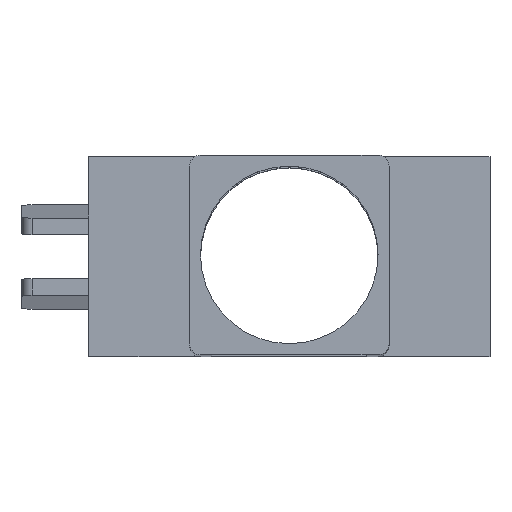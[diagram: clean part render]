
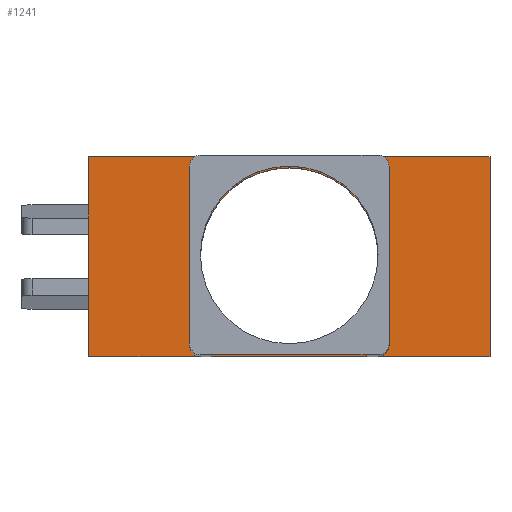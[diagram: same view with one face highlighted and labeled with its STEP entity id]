
A CAD part, top view. The second image highlights one B-rep face of the part: STEP entity #1241.
In plain terms, the highlighted planar face has unit normal (0, 0, 1).
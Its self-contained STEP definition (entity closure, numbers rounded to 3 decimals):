
#2=CARTESIAN_POINT('',(-4.29,-8.,44.));
#3=DIRECTION('',(0.,0.,-1.));
#4=DIRECTION('',(0.,-1.,0.));
#5=AXIS2_PLACEMENT_3D('',#2,#3,#4);
#57=DIRECTION('',(0.,1.,0.));
#58=VECTOR('',#57,2.);
#59=CARTESIAN_POINT('',(10.71,7.,44.));
#60=LINE('',#59,#58);
#65=DIRECTION('',(0.,1.,0.));
#66=VECTOR('',#65,2.);
#67=CARTESIAN_POINT('',(10.71,-9.,44.));
#68=LINE('',#67,#66);
#117=DIRECTION('',(1.,0.,0.));
#118=VECTOR('',#117,14.);
#119=CARTESIAN_POINT('',(-3.29,9.,44.));
#120=LINE('',#119,#118);
#125=CARTESIAN_POINT('',(-4.29,8.,44.));
#126=DIRECTION('',(0.,0.,-1.));
#127=DIRECTION('',(-1.,0.,0.));
#128=AXIS2_PLACEMENT_3D('',#125,#126,#127);
#176=CARTESIAN_POINT('',(11.71,8.,44.));
#177=DIRECTION('',(0.,0.,-1.));
#178=DIRECTION('',(0.,1.,0.));
#179=AXIS2_PLACEMENT_3D('',#176,#177,#178);
#201=DIRECTION('',(1.,0.,0.));
#202=VECTOR('',#201,2.);
#203=CARTESIAN_POINT('',(-5.29,-7.,44.));
#204=LINE('',#203,#202);
#205=DIRECTION('',(1.,0.,0.));
#206=VECTOR('',#205,2.);
#207=CARTESIAN_POINT('',(10.71,-7.,44.));
#208=LINE('',#207,#206);
#209=DIRECTION('',(0.,1.,0.));
#210=VECTOR('',#209,2.);
#211=CARTESIAN_POINT('',(-3.29,-9.,44.));
#212=LINE('',#211,#210);
#213=DIRECTION('',(0.,1.,0.));
#214=VECTOR('',#213,1.);
#215=CARTESIAN_POINT('',(-5.29,-8.,44.));
#216=LINE('',#215,#214);
#217=DIRECTION('',(-1.,0.,0.));
#218=VECTOR('',#217,10.09);
#219=CARTESIAN_POINT('',(-4.29,-9.,44.));
#220=LINE('',#219,#218);
#221=DIRECTION('',(1.,0.,0.));
#222=VECTOR('',#221,10.09);
#223=CARTESIAN_POINT('',(-14.38,9.,44.));
#224=LINE('',#223,#222);
#225=DIRECTION('',(0.,1.,0.));
#226=VECTOR('',#225,1.);
#227=CARTESIAN_POINT('',(-5.29,7.,44.));
#228=LINE('',#227,#226);
#229=DIRECTION('',(1.,0.,0.));
#230=VECTOR('',#229,2.);
#231=CARTESIAN_POINT('',(-5.29,7.,44.));
#232=LINE('',#231,#230);
#233=DIRECTION('',(0.,1.,0.));
#234=VECTOR('',#233,2.);
#235=CARTESIAN_POINT('',(-3.29,7.,44.));
#236=LINE('',#235,#234);
#237=DIRECTION('',(1.,0.,0.));
#238=VECTOR('',#237,2.);
#239=CARTESIAN_POINT('',(10.71,7.,44.));
#240=LINE('',#239,#238);
#241=DIRECTION('',(0.,1.,0.));
#242=VECTOR('',#241,1.);
#243=CARTESIAN_POINT('',(12.71,7.,44.));
#244=LINE('',#243,#242);
#245=DIRECTION('',(1.,0.,0.));
#246=VECTOR('',#245,10.09);
#247=CARTESIAN_POINT('',(11.71,9.,44.));
#248=LINE('',#247,#246);
#249=DIRECTION('',(-1.,0.,0.));
#250=VECTOR('',#249,10.09);
#251=CARTESIAN_POINT('',(21.8,-9.,44.));
#252=LINE('',#251,#250);
#253=DIRECTION('',(0.,1.,0.));
#254=VECTOR('',#253,1.);
#255=CARTESIAN_POINT('',(12.71,-8.,44.));
#256=LINE('',#255,#254);
#257=CARTESIAN_POINT('',(3.71,0.,44.));
#258=DIRECTION('',(0.,0.,1.));
#259=DIRECTION('',(-1.,0.,0.));
#260=AXIS2_PLACEMENT_3D('',#257,#258,#259);
#262=CARTESIAN_POINT('',(3.71,0.,44.));
#263=DIRECTION('',(0.,0.,1.));
#264=DIRECTION('',(1.,0.,0.));
#265=AXIS2_PLACEMENT_3D('',#262,#263,#264);
#287=DIRECTION('',(1.,0.,0.));
#288=VECTOR('',#287,14.);
#289=CARTESIAN_POINT('',(-3.29,-9.,44.));
#290=LINE('',#289,#288);
#295=CARTESIAN_POINT('',(11.71,-8.,44.));
#296=DIRECTION('',(0.,0.,-1.));
#297=DIRECTION('',(1.,0.,0.));
#298=AXIS2_PLACEMENT_3D('',#295,#296,#297);
#310=DIRECTION('',(0.,-1.,0.));
#311=VECTOR('',#310,18.);
#312=CARTESIAN_POINT('',(21.8,9.,44.));
#313=LINE('',#312,#311);
#438=DIRECTION('',(0.,1.,0.));
#439=VECTOR('',#438,18.);
#440=CARTESIAN_POINT('',(-14.38,-9.,44.));
#441=LINE('',#440,#439);
#716=CARTESIAN_POINT('',(-14.38,-9.,44.));
#717=CARTESIAN_POINT('',(-14.38,9.,44.));
#718=VERTEX_POINT('',#716);
#719=VERTEX_POINT('',#717);
#784=CARTESIAN_POINT('',(21.8,9.,44.));
#785=CARTESIAN_POINT('',(21.8,-9.,44.));
#786=VERTEX_POINT('',#784);
#787=VERTEX_POINT('',#785);
#801=CARTESIAN_POINT('',(-5.29,-8.,44.));
#803=VERTEX_POINT('',#801);
#806=CARTESIAN_POINT('',(-4.29,-9.,44.));
#807=VERTEX_POINT('',#806);
#809=CARTESIAN_POINT('',(11.71,-9.,44.));
#811=VERTEX_POINT('',#809);
#814=CARTESIAN_POINT('',(12.71,-8.,44.));
#815=VERTEX_POINT('',#814);
#817=CARTESIAN_POINT('',(-4.29,9.,44.));
#819=VERTEX_POINT('',#817);
#822=CARTESIAN_POINT('',(-5.29,8.,44.));
#823=VERTEX_POINT('',#822);
#825=CARTESIAN_POINT('',(12.71,8.,44.));
#827=VERTEX_POINT('',#825);
#830=CARTESIAN_POINT('',(11.71,9.,44.));
#831=VERTEX_POINT('',#830);
#844=CARTESIAN_POINT('',(-3.29,-9.,44.));
#845=VERTEX_POINT('',#844);
#846=CARTESIAN_POINT('',(10.71,-9.,44.));
#847=VERTEX_POINT('',#846);
#852=CARTESIAN_POINT('',(-3.29,9.,44.));
#853=VERTEX_POINT('',#852);
#854=CARTESIAN_POINT('',(10.71,9.,44.));
#855=VERTEX_POINT('',#854);
#860=CARTESIAN_POINT('',(-5.29,7.,44.));
#861=VERTEX_POINT('',#860);
#862=CARTESIAN_POINT('',(-5.29,-7.,44.));
#863=VERTEX_POINT('',#862);
#868=CARTESIAN_POINT('',(12.71,7.,44.));
#869=VERTEX_POINT('',#868);
#870=CARTESIAN_POINT('',(12.71,-7.,44.));
#871=VERTEX_POINT('',#870);
#873=CARTESIAN_POINT('',(-3.29,7.,44.));
#875=VERTEX_POINT('',#873);
#877=CARTESIAN_POINT('',(-3.29,-7.,44.));
#879=VERTEX_POINT('',#877);
#880=CARTESIAN_POINT('',(10.71,7.,44.));
#882=VERTEX_POINT('',#880);
#884=CARTESIAN_POINT('',(10.71,-7.,44.));
#886=VERTEX_POINT('',#884);
#890=CARTESIAN_POINT('',(11.71,0.,44.));
#891=VERTEX_POINT('',#890);
#894=CARTESIAN_POINT('',(-4.29,0.,44.));
#895=VERTEX_POINT('',#894);
#1198=CARTESIAN_POINT('',(1.25,4.,44.));
#1199=DIRECTION('',(0.,0.,1.));
#1200=DIRECTION('',(1.,0.,0.));
#1201=AXIS2_PLACEMENT_3D('',#1198,#1199,#1200);
#1202=PLANE('',#1201);
#1203=ORIENTED_EDGE('',*,*,#1193,.F.);
#1204=ORIENTED_EDGE('',*,*,#997,.F.);
#1206=ORIENTED_EDGE('',*,*,#1205,.F.);
#1207=ORIENTED_EDGE('',*,*,#1051,.T.);
#1208=ORIENTED_EDGE('',*,*,#1178,.F.);
#1209=ORIENTED_EDGE('',*,*,#928,.F.);
#1210=ORIENTED_EDGE('',*,*,#907,.F.);
#1212=ORIENTED_EDGE('',*,*,#1211,.T.);
#1214=ORIENTED_EDGE('',*,*,#1213,.T.);
#1215=ORIENTED_EDGE('',*,*,#1066,.T.);
#1216=ORIENTED_EDGE('',*,*,#1107,.F.);
#1217=ORIENTED_EDGE('',*,*,#921,.F.);
#1218=ORIENTED_EDGE('',*,*,#1011,.T.);
#1219=ORIENTED_EDGE('',*,*,#1039,.T.);
#1220=ORIENTED_EDGE('',*,*,#1092,.T.);
#1221=ORIENTED_EDGE('',*,*,#979,.F.);
#1222=ORIENTED_EDGE('',*,*,#1023,.T.);
#1223=ORIENTED_EDGE('',*,*,#1166,.T.);
#1224=ORIENTED_EDGE('',*,*,#1147,.F.);
#1225=ORIENTED_EDGE('',*,*,#1082,.T.);
#1227=ORIENTED_EDGE('',*,*,#1226,.T.);
#1229=ORIENTED_EDGE('',*,*,#1228,.T.);
#1231=ORIENTED_EDGE('',*,*,#1230,.F.);
#1232=ORIENTED_EDGE('',*,*,#1160,.T.);
#1233=EDGE_LOOP('',(#1203,#1204,#1206,#1207,#1208,#1209,#1210,#1212,#1214,#1215,
#1216,#1217,#1218,#1219,#1220,#1221,#1222,#1223,#1224,#1225,#1227,#1229,#1231,
#1232));
#1234=FACE_OUTER_BOUND('',#1233,.F.);
#1236=ORIENTED_EDGE('',*,*,#1235,.T.);
#1238=ORIENTED_EDGE('',*,*,#1237,.T.);
#1239=EDGE_LOOP('',(#1236,#1238));
#1240=FACE_BOUND('',#1239,.F.);
#1241=ADVANCED_FACE('',(#1234,#1240),#1202,.T.);
#6=CIRCLE('',#5,1.);
#129=CIRCLE('',#128,1.);
#180=CIRCLE('',#179,1.);
#261=CIRCLE('',#260,8.);
#266=CIRCLE('',#265,8.);
#299=CIRCLE('',#298,1.);
#907=EDGE_CURVE('',#807,#803,#6,.T.);
#921=EDGE_CURVE('',#861,#823,#228,.T.);
#928=EDGE_CURVE('',#803,#863,#216,.T.);
#979=EDGE_CURVE('',#882,#855,#60,.T.);
#997=EDGE_CURVE('',#847,#886,#68,.T.);
#1011=EDGE_CURVE('',#861,#875,#232,.T.);
#1023=EDGE_CURVE('',#882,#869,#240,.T.);
#1039=EDGE_CURVE('',#875,#853,#236,.T.);
#1051=EDGE_CURVE('',#845,#879,#212,.T.);
#1066=EDGE_CURVE('',#719,#819,#224,.T.);
#1082=EDGE_CURVE('',#831,#786,#248,.T.);
#1092=EDGE_CURVE('',#853,#855,#120,.T.);
#1107=EDGE_CURVE('',#823,#819,#129,.T.);
#1147=EDGE_CURVE('',#831,#827,#180,.T.);
#1160=EDGE_CURVE('',#815,#871,#256,.T.);
#1166=EDGE_CURVE('',#869,#827,#244,.T.);
#1178=EDGE_CURVE('',#863,#879,#204,.T.);
#1193=EDGE_CURVE('',#886,#871,#208,.T.);
#1205=EDGE_CURVE('',#845,#847,#290,.T.);
#1211=EDGE_CURVE('',#807,#718,#220,.T.);
#1213=EDGE_CURVE('',#718,#719,#441,.T.);
#1226=EDGE_CURVE('',#786,#787,#313,.T.);
#1228=EDGE_CURVE('',#787,#811,#252,.T.);
#1230=EDGE_CURVE('',#815,#811,#299,.T.);
#1235=EDGE_CURVE('',#895,#891,#261,.T.);
#1237=EDGE_CURVE('',#891,#895,#266,.T.);
